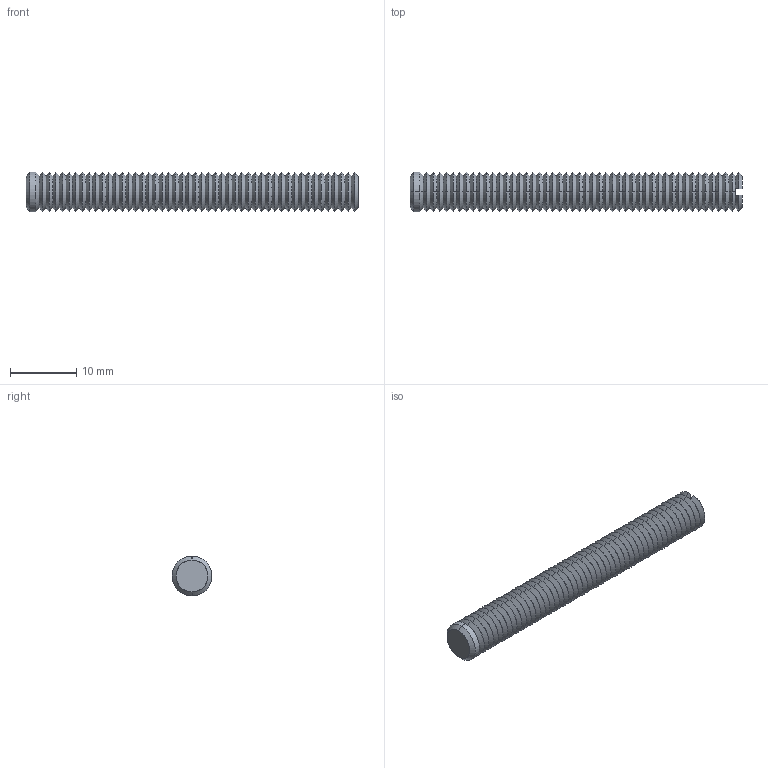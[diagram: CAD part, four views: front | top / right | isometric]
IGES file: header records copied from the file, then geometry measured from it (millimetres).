
Start section: SolidWorks IGES file using analytic representation for surfaces
Global section: file name: C:\Documents and Settings\IANO\Desktop\Temp File\Process pending\EXISTING\34300_v2\34300_v2_20170622_IGES\34300.W0066.igs; native system: SolidWorks 2009; preprocessor: SolidWorks 2009; author: IANO; date: 170622.093646; units: millimetre
Bounding box: 50 x 6 x 6 mm (x, y, z)
Surface area: 1385 mm2 (no closed solid volume)
Topology: 0 solids, 0 shells, 204 faces, 880 edges, 880 vertices
Faces by surface type: revolution 198, bspline 6
